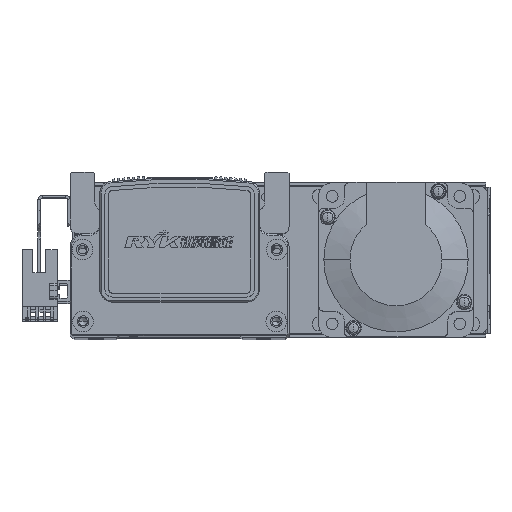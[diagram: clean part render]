
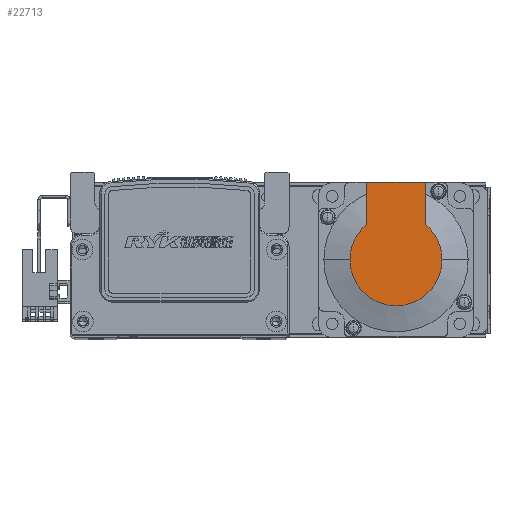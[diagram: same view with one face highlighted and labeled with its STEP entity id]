
A CAD part, top view. The second image highlights one B-rep face of the part: STEP entity #22713.
In plain terms, the highlighted planar face has unit normal (0, 0, 1) as drawn and (-1, 0, 0) by its records, which use the part's own axes.
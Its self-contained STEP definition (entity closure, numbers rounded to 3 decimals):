
#2014 = FACE_OUTER_BOUND ( 'NONE', #59351, .T. ) ;
#3452 = AXIS2_PLACEMENT_3D ( 'NONE', #67292, #67259, #67284 ) ;
#3504 = AXIS2_PLACEMENT_3D ( 'NONE', #67495, #67500, #67496 ) ;
#3522 = AXIS2_PLACEMENT_3D ( 'NONE', #18097, #18100, #18123 ) ;
#5189 = VERTEX_POINT ( 'NONE', #60098 ) ;
#5195 = VERTEX_POINT ( 'NONE', #60078 ) ;
#5223 = VERTEX_POINT ( 'NONE', #60116 ) ;
#9803 = DIRECTION ( 'NONE',  ( 0., -1., 0. ) ) ;
#9840 = CARTESIAN_POINT ( 'NONE',  ( -99., -8.941, -11.45 ) ) ;
#9957 = VERTEX_POINT ( 'NONE', #60653 ) ;
#9967 = VERTEX_POINT ( 'NONE', #60640 ) ;
#9988 = VERTEX_POINT ( 'NONE', #60597 ) ;
#10199 = CARTESIAN_POINT ( 'NONE',  ( -99., 0., 11.45 ) ) ;
#10227 = DIRECTION ( 'NONE',  ( 0., -1., 0. ) ) ;
#10795 = CIRCLE ( 'NONE', #3522, 17.881 ) ;
#10999 = VECTOR ( 'NONE', #18575, 1000. ) ;
#11002 = LINE ( 'NONE', #18573, #10999 ) ;
#11101 = VECTOR ( 'NONE', #9803, 1000. ) ;
#11104 = LINE ( 'NONE', #9840, #11101 ) ;
#11153 = LINE ( 'NONE', #10199, #11186 ) ;
#11186 = VECTOR ( 'NONE', #10227, 1000. ) ;
#14972 = AXIS2_PLACEMENT_3D ( 'NONE', #25285, #25295, #25287 ) ;
#18097 = CARTESIAN_POINT ( 'NONE',  ( -99., 0., 0. ) ) ;
#18100 = DIRECTION ( 'NONE',  ( -1., 0., 0. ) ) ;
#18123 = DIRECTION ( 'NONE',  ( 0., 0., -1. ) ) ;
#18573 = CARTESIAN_POINT ( 'NONE',  ( -99., 30., 25. ) ) ;
#18575 = DIRECTION ( 'NONE',  ( 0., 0., 1. ) ) ;
#19338 = CIRCLE ( 'NONE', #3452, 17.881 ) ;
#19436 = CIRCLE ( 'NONE', #3504, 17.881 ) ;
#22713 = ADVANCED_FACE ( 'NONE', ( #2014 ), #25284, .T. ) ;
#25284 = PLANE ( 'NONE',  #14972 ) ;
#25285 = CARTESIAN_POINT ( 'NONE',  ( -99., -8.941, 0. ) ) ;
#25287 = DIRECTION ( 'NONE',  ( 0., 0., 1. ) ) ;
#25295 = DIRECTION ( 'NONE',  ( -1., 0., 0. ) ) ;
#53624 = EDGE_CURVE ( 'NONE', #5223, #5195, #19338, .T. ) ;
#53705 = EDGE_CURVE ( 'NONE', #5195, #5189, #19436, .T. ) ;
#54199 = EDGE_CURVE ( 'NONE', #9988, #5223, #10795, .T. ) ;
#54281 = EDGE_CURVE ( 'NONE', #9957, #9967, #11002, .T. ) ;
#54343 = EDGE_CURVE ( 'NONE', #9957, #9988, #11104, .T. ) ;
#54407 = EDGE_CURVE ( 'NONE', #9967, #5189, #11153, .T. ) ;
#59351 = EDGE_LOOP ( 'NONE', ( #59868, #59916, #59880, #59887, #59878, #59864 ) ) ;
#59864 = ORIENTED_EDGE ( 'NONE', *, *, #54281, .F. ) ;
#59868 = ORIENTED_EDGE ( 'NONE', *, *, #54343, .T. ) ;
#59878 = ORIENTED_EDGE ( 'NONE', *, *, #54407, .F. ) ;
#59880 = ORIENTED_EDGE ( 'NONE', *, *, #53624, .T. ) ;
#59887 = ORIENTED_EDGE ( 'NONE', *, *, #53705, .T. ) ;
#59916 = ORIENTED_EDGE ( 'NONE', *, *, #54199, .T. ) ;
#60078 = CARTESIAN_POINT ( 'NONE',  ( -99., 0., 17.881 ) ) ;
#60098 = CARTESIAN_POINT ( 'NONE',  ( -99., 13.735, 11.45 ) ) ;
#60116 = CARTESIAN_POINT ( 'NONE',  ( -99., 0., -17.881 ) ) ;
#60597 = CARTESIAN_POINT ( 'NONE',  ( -99., 13.735, -11.45 ) ) ;
#60640 = CARTESIAN_POINT ( 'NONE',  ( -99., 30., 11.45 ) ) ;
#60653 = CARTESIAN_POINT ( 'NONE',  ( -99., 30., -11.45 ) ) ;
#67259 = DIRECTION ( 'NONE',  ( -1., 0., 0. ) ) ;
#67284 = DIRECTION ( 'NONE',  ( 0., 0., -1. ) ) ;
#67292 = CARTESIAN_POINT ( 'NONE',  ( -99., 0., 0. ) ) ;
#67495 = CARTESIAN_POINT ( 'NONE',  ( -99., 0., 0. ) ) ;
#67496 = DIRECTION ( 'NONE',  ( 0., 0., -1. ) ) ;
#67500 = DIRECTION ( 'NONE',  ( -1., 0., 0. ) ) ;
